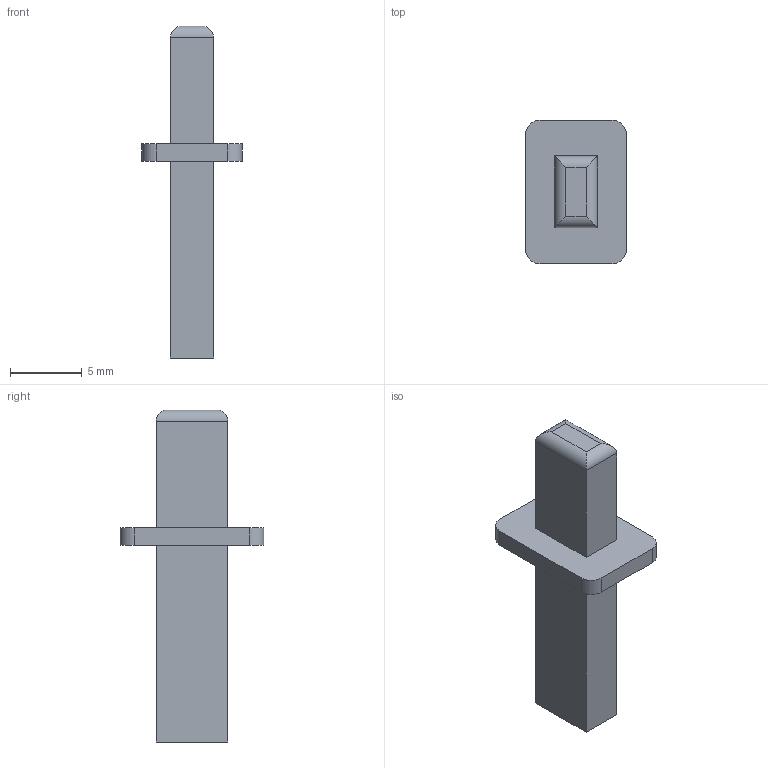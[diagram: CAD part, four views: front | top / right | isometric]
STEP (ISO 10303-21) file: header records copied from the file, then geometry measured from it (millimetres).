
FILE_DESCRIPTION(('Open CASCADE Model'),'2;1');
FILE_NAME('Open CASCADE Shape Model','2026-11-10T13:03:27',('Author'),( 'Open CASCADE'),'Open CASCADE STEP processor 7.7','Open CASCADE 7.7' ,'Unknown');
FILE_SCHEMA(('AUTOMOTIVE_DESIGN { 1 0 10303 214 1 1 1 1 }'));
Length unit declared in the file: millimetre
Products named in the file (1): Open CASCADE STEP translator 7.7 9
Bounding box: 7 x 10 x 23.09 mm (x, y, z)
Volume: 403.8 mm3; surface area: 534.3 mm2
Topology: 1 solids, 1 shells, 29 faces, 68 edges, 44 vertices
Faces by surface type: plane 21, cylinder 8
Entity records: 1744 total; most frequent: CARTESIAN_POINT 382, DIRECTION 240, LINE 152, VECTOR 152, ORIENTED_EDGE 136, PCURVE 136, DEFINITIONAL_REPRESENTATION 136, EDGE_CURVE 68
